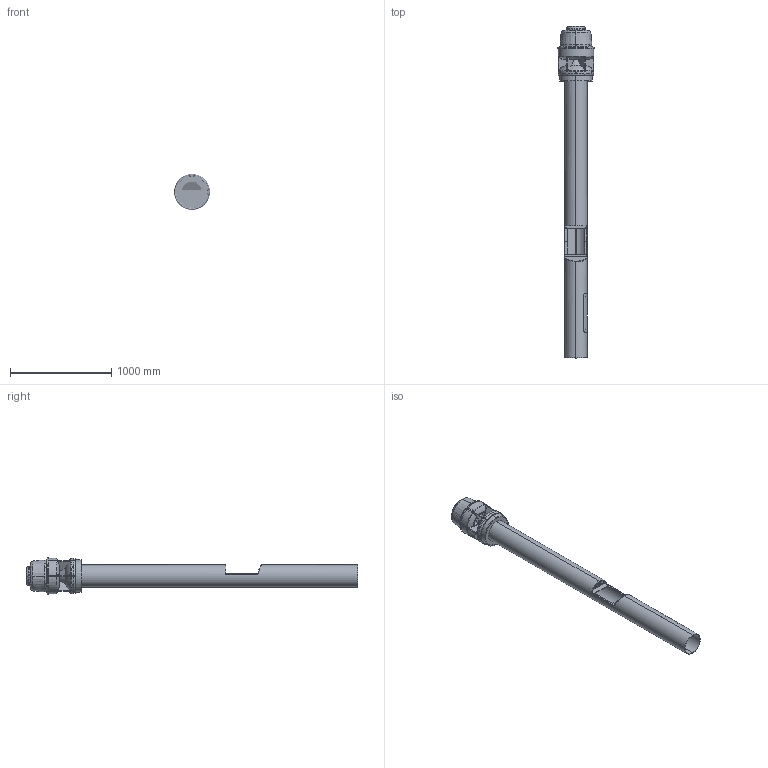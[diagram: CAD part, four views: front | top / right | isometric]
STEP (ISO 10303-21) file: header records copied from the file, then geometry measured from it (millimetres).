
FILE_DESCRIPTION (( 'STEP AP203' ), '1' );
FILE_NAME ('cad-128_CB5-s_PAS_dwg.STEP', '2019-05-03T01:54:55', ( '' ), ( '' ), 'SwSTEP 2.0', 'SolidWorks 2018', '' );
FILE_SCHEMA (( 'CONFIG_CONTROL_DESIGN' ));
Products named in the file (1): cad-128_CB5-s_PAS_dwg
Bounding box: 356.87 x 3280.31 x 356.87 mm (x, y, z)
Volume: 19559045 mm3; surface area: 7234967 mm2
Topology: 96 solids, 96 shells, 7345 faces, 19866 edges, 12669 vertices
Faces by surface type: cylinder 2413, plane 2367, bspline 2055, cone 510
Entity records: 396453 total; most frequent: CARTESIAN_POINT 220483, ORIENTED_EDGE 42010, DIRECTION 29953, EDGE_CURVE 21005, VERTEX_POINT 13507, AXIS2_PLACEMENT_3D 11243, EDGE_LOOP 8444, FACE_OUTER_BOUND 7857
